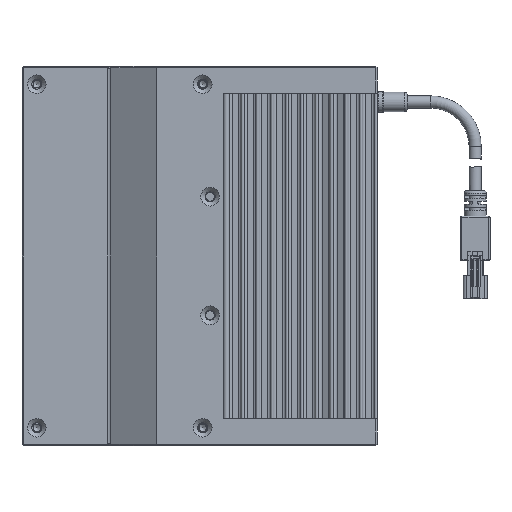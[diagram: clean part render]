
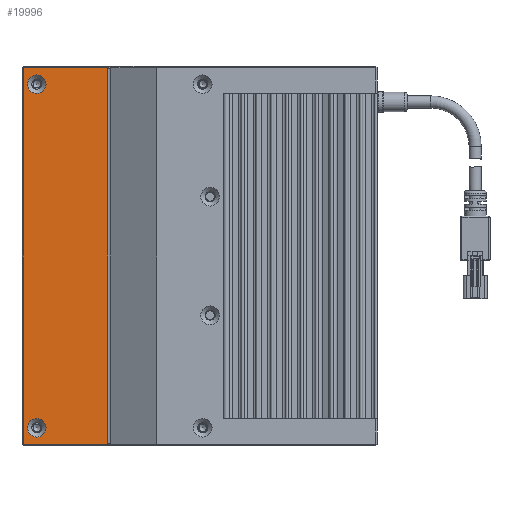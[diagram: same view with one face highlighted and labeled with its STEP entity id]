
A CAD part, left-side view. The second image highlights one B-rep face of the part: STEP entity #19996.
In plain terms, the highlighted planar face has unit normal (-1, 0, 0).
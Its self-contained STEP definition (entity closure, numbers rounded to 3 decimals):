
#1033 = DIRECTION ( 'NONE',  ( 1., 0., 0. ) ) ;
#1949 = ORIENTED_EDGE ( 'NONE', *, *, #26173, .F. ) ;
#2919 = CARTESIAN_POINT ( 'NONE',  ( -15.462, 16.939, 244.65 ) ) ;
#3258 = CARTESIAN_POINT ( 'NONE',  ( -15.462, -6.987, 247. ) ) ;
#5118 = LINE ( 'NONE', #26289, #27152 ) ;
#5330 = EDGE_LOOP ( 'NONE', ( #17279 ) ) ;
#5959 = DIRECTION ( 'NONE',  ( -1., 0., 0. ) ) ;
#6003 = VECTOR ( 'NONE', #19222, 1000. ) ;
#6440 = EDGE_CURVE ( 'NONE', #33252, #21545, #5118, .T. ) ;
#7323 = LINE ( 'NONE', #26095, #32482 ) ;
#7661 = EDGE_CURVE ( 'NONE', #16968, #16968, #7869, .T. ) ;
#7869 = CIRCLE ( 'NONE', #26287, 3.15 ) ;
#8423 = VERTEX_POINT ( 'NONE', #8716 ) ;
#8545 = ORIENTED_EDGE ( 'NONE', *, *, #10137, .T. ) ;
#8622 = AXIS2_PLACEMENT_3D ( 'NONE', #31569, #1033, #18943 ) ;
#8716 = CARTESIAN_POINT ( 'NONE',  ( -15.462, 21.439, 120. ) ) ;
#9599 = DIRECTION ( 'NONE',  ( 0., 0., 1. ) ) ;
#10137 = EDGE_CURVE ( 'NONE', #33252, #29088, #7323, .T. ) ;
#10846 = LINE ( 'NONE', #11842, #6003 ) ;
#11700 = FACE_OUTER_BOUND ( 'NONE', #32593, .T. ) ;
#11842 = CARTESIAN_POINT ( 'NONE',  ( -15.462, 21.439, 245.5 ) ) ;
#12550 = VERTEX_POINT ( 'NONE', #21375 ) ;
#13787 = DIRECTION ( 'NONE',  ( 0., 0., 1. ) ) ;
#15130 = CARTESIAN_POINT ( 'NONE',  ( -15.462, 21.439, 247. ) ) ;
#15464 = CIRCLE ( 'NONE', #32625, 3.15 ) ;
#15598 = EDGE_CURVE ( 'NONE', #12550, #12550, #15464, .T. ) ;
#16968 = VERTEX_POINT ( 'NONE', #2919 ) ;
#17279 = ORIENTED_EDGE ( 'NONE', *, *, #7661, .F. ) ;
#17691 = FACE_BOUND ( 'NONE', #5330, .T. ) ;
#18640 = LINE ( 'NONE', #26447, #24236 ) ;
#18902 = CARTESIAN_POINT ( 'NONE',  ( -15.462, -6.987, 120. ) ) ;
#18943 = DIRECTION ( 'NONE',  ( 0., 0., -1. ) ) ;
#19222 = DIRECTION ( 'NONE',  ( 0., 0., 1. ) ) ;
#19544 = ORIENTED_EDGE ( 'NONE', *, *, #22532, .F. ) ;
#19996 = ADVANCED_FACE ( 'NONE', ( #30487, #17691, #11700 ), #26683, .F. ) ;
#20931 = DIRECTION ( 'NONE',  ( 0., 1., 0. ) ) ;
#21276 = CARTESIAN_POINT ( 'NONE',  ( -15.462, 16.939, 241.5 ) ) ;
#21375 = CARTESIAN_POINT ( 'NONE',  ( -15.462, 16.939, 128.65 ) ) ;
#21545 = VERTEX_POINT ( 'NONE', #18902 ) ;
#22532 = EDGE_CURVE ( 'NONE', #8423, #29088, #10846, .T. ) ;
#24236 = VECTOR ( 'NONE', #26015, 1000. ) ;
#24338 = EDGE_LOOP ( 'NONE', ( #30687 ) ) ;
#24682 = DIRECTION ( 'NONE',  ( -1., 0., 0. ) ) ;
#26015 = DIRECTION ( 'NONE',  ( 0., 1., 0. ) ) ;
#26095 = CARTESIAN_POINT ( 'NONE',  ( -15.462, -7.561, 247. ) ) ;
#26173 = EDGE_CURVE ( 'NONE', #21545, #8423, #18640, .T. ) ;
#26176 = DIRECTION ( 'NONE',  ( 0., 0., -1. ) ) ;
#26287 = AXIS2_PLACEMENT_3D ( 'NONE', #21276, #5959, #13787 ) ;
#26289 = CARTESIAN_POINT ( 'NONE',  ( -15.462, -6.987, 245.5 ) ) ;
#26447 = CARTESIAN_POINT ( 'NONE',  ( -15.462, -7.561, 120. ) ) ;
#26683 = PLANE ( 'NONE',  #8622 ) ;
#27152 = VECTOR ( 'NONE', #26176, 1000. ) ;
#29088 = VERTEX_POINT ( 'NONE', #15130 ) ;
#30033 = ORIENTED_EDGE ( 'NONE', *, *, #6440, .F. ) ;
#30487 = FACE_BOUND ( 'NONE', #24338, .T. ) ;
#30687 = ORIENTED_EDGE ( 'NONE', *, *, #15598, .F. ) ;
#31569 = CARTESIAN_POINT ( 'NONE',  ( -15.462, -7.561, 245.5 ) ) ;
#32131 = CARTESIAN_POINT ( 'NONE',  ( -15.462, 16.939, 125.5 ) ) ;
#32482 = VECTOR ( 'NONE', #20931, 1000. ) ;
#32593 = EDGE_LOOP ( 'NONE', ( #19544, #1949, #30033, #8545 ) ) ;
#32625 = AXIS2_PLACEMENT_3D ( 'NONE', #32131, #24682, #9599 ) ;
#33252 = VERTEX_POINT ( 'NONE', #3258 ) ;
